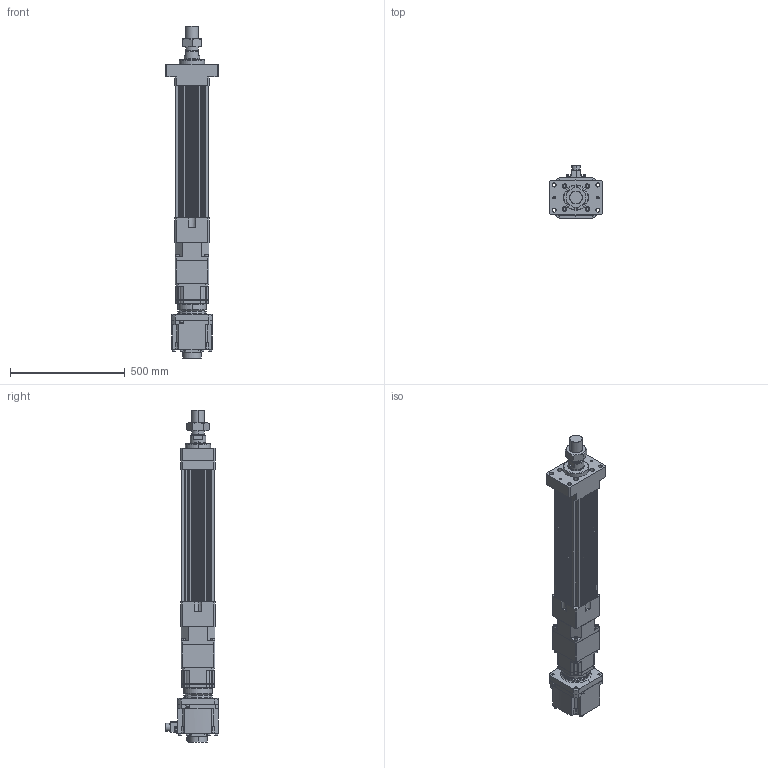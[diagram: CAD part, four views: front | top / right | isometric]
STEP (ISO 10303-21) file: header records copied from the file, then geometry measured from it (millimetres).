
FILE_DESCRIPTION (( 'STEP AP203' ), '1' );
FILE_NAME ('HES150NS(HS)-S300-W035G00-M-FM.STEP', '2023-02-01T04:28:53', ( 'tms' ), ( '' ), 'SwSTEP 2.0', 'SolidWorks 2013', '' );
FILE_SCHEMA (( 'CONFIG_CONTROL_DESIGN' ));
Length unit declared in the file: millimetre
Products named in the file (9): HES150 ROD M ST300; P1301500001; P0403500801; HES150NS(HS)-S300-W035G00-M-FM; HG-SR352; M56X2.0P; HES150-S300-G142-FM; AB142-003[HG-SR352]; AB1421
Assembly tree (8 placements, depth 3):
  HES150NS(HS)-S300-W035G00-M-FM
    HES150-S300-G142-FM
    HES150 ROD M ST300
    M56X2.0P
    AB142-003[HG-SR352]
      AB1421
      P1301500001
      P0403500801
    HG-SR352
Bounding box: 230 x 228.85 x 1447.5 mm (x, y, z)
Volume: 16706994.8 mm3; surface area: 1768162.6 mm2
Topology: 5 solids, 23 shells, 1508 faces, 3908 edges, 2538 vertices
Faces by surface type: cylinder 687, plane 587, cone 152, bspline 76, torus 6
Entity records: 55082 total; most frequent: CARTESIAN_POINT 16753, DIRECTION 8014, ORIENTED_EDGE 7718, EDGE_CURVE 3881, AXIS2_PLACEMENT_3D 3024, VERTEX_POINT 2538, LINE 1966, VECTOR 1966
